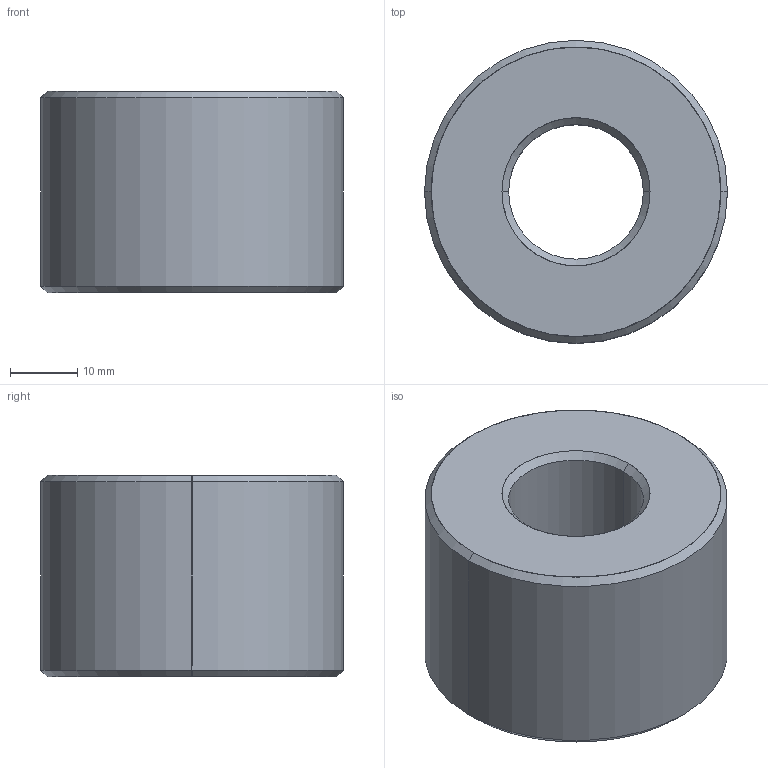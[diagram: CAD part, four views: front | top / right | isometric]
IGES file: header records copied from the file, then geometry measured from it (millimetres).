
Start section: SolidWorks IGES file using analytic representation for surfaces
Global section: file name: C:\Users\ianosborn\Desktop\L1339_v2\L1339_v2_20241024_IGES\L1339.L20-04.igs; native system: SolidWorks 2019; preprocessor: SolidWorks 2019; author: IanOsborn; date: 241024.150534; units: millimetre
Bounding box: 45 x 45 x 30 mm (x, y, z)
Surface area: 8439.4 mm2 (no closed solid volume)
Topology: 0 solids, 0 shells, 14 faces, 240 edges, 240 vertices
Faces by surface type: revolution 12, bspline 2
